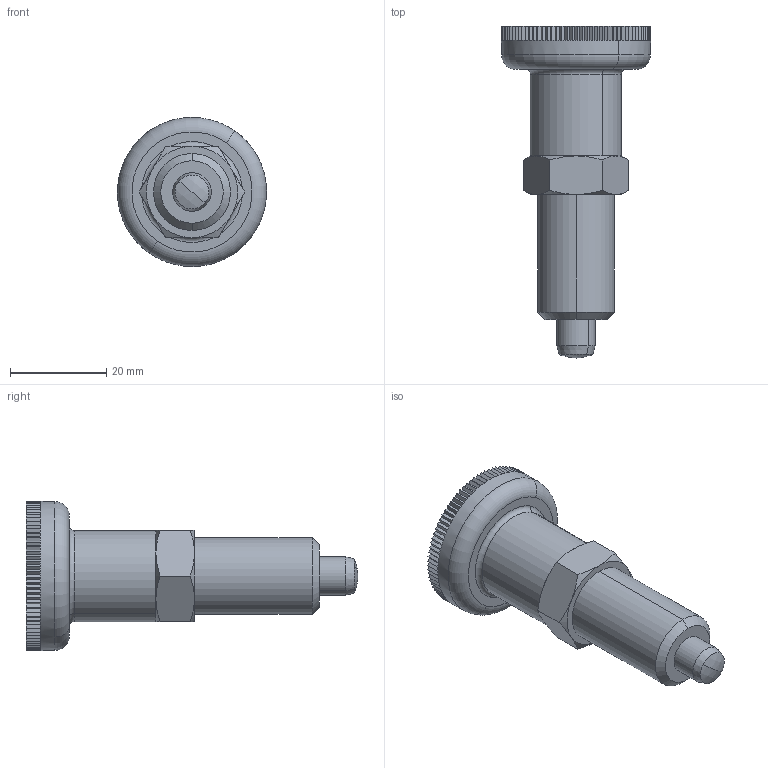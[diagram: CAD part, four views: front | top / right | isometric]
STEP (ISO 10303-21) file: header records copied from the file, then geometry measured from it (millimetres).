
FILE_DESCRIPTION (( 'STEP AP203' ), '1' );
FILE_NAME ('32700.W0008.step', '2011-03-28T11:58:43', ( 'Wixroyd' ), ( 'Wixroyd' ), 'SwSTEP 2.0', 'SolidWorks 2009', '' );
FILE_SCHEMA (( 'CONFIG_CONTROL_DESIGN' ));
Length unit declared in the file: millimetre
Products named in the file (5): Part1_3270.W008; Part2_3270.W008; 32700.W0008; Part3_3270.W008; Part4_3270.W008
Assembly tree (4 placements, depth 2):
  32700.W0008
    Part2_3270.W008
    Part3_3270.W008
    Part1_3270.W008
    Part4_3270.W008
Bounding box: 31 x 69 x 31 mm (x, y, z)
Volume: 17740.4 mm3; surface area: 8946.4 mm2
Topology: 4 solids, 4 shells, 435 faces, 1052 edges, 634 vertices
Faces by surface type: plane 381, cylinder 26, cone 20, sphere 4, torus 4
Entity records: 13023 total; most frequent: CARTESIAN_POINT 2280, DIRECTION 2150, ORIENTED_EDGE 2104, EDGE_CURVE 1052, VECTOR 790, LINE 790, AXIS2_PLACEMENT_3D 680, VERTEX_POINT 634
